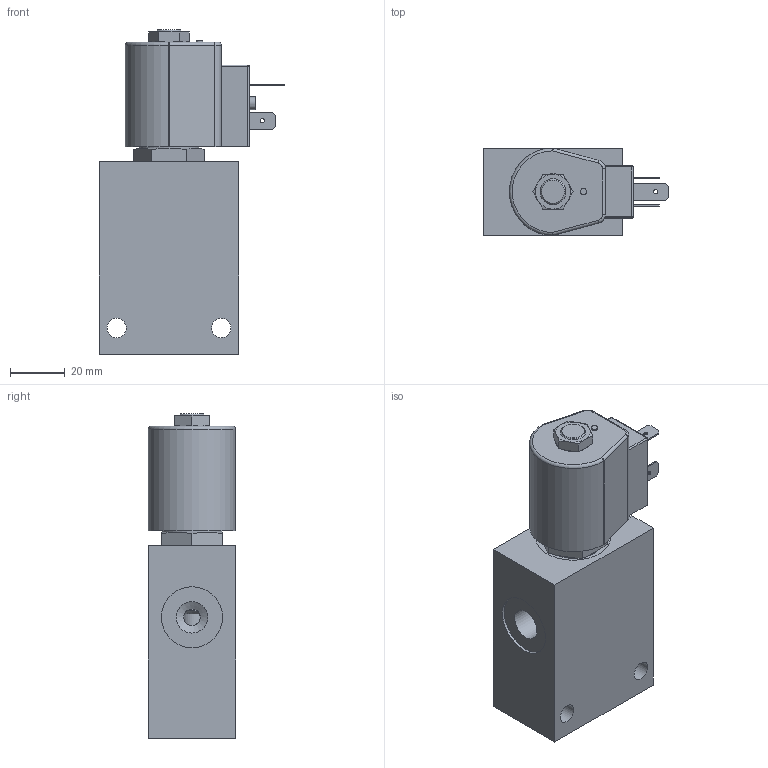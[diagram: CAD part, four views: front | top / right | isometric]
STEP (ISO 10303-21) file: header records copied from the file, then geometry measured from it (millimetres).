
FILE_DESCRIPTION( ( 'Unknown' ), '1' );
FILE_NAME( 'G:/Graphic Design/Graphic Design 2/Data Sheets/SOLENOID OPERATED VALVES/4_STEP/4W2P Spool/HD-S4A00-A4.stp', 'Unknown', ( 'Unknown' ), ( 'Unknown' ), 'PSStep 15.0.49', 'Unknown', ' ' );
FILE_SCHEMA( ( 'AUTOMOTIVE_DESIGN { 1 0 10303 214 1 1 1 1 }' ) );
Length unit declared in the file: millimetre
Products named in the file (14): HDS4A00; HDS4A00-3D Full1; HDS4A00-3D Full2; HDS4A00-3D Full3; HDS4A00-3D Full4; HDS4A00-3D Full5; HDS4A00-3D Full6; HDS4A00-3D Full7; HDS4A00-3D Full8; D-MHC12; MHC_0; Assem1; B-D-MD-A4A; Delta_3_8_nut1
Assembly tree (13 placements, depth 3):
  Assem1
    B-D-MD-A4A
    Delta_3_8_nut1
    HDS4A00
      HDS4A00-3D Full1
      HDS4A00-3D Full2
      HDS4A00-3D Full3
      HDS4A00-3D Full4
      HDS4A00-3D Full5
      HDS4A00-3D Full6
      HDS4A00-3D Full7
      HDS4A00-3D Full8
    D-MHC12
      MHC_0
Bounding box: 67.56 x 31.77 x 118.05 mm (x, y, z)
Volume: 140903.3 mm3; surface area: 35980.5 mm2
Topology: 11 solids, 11 shells, 265 faces, 590 edges, 367 vertices
Faces by surface type: plane 97, cylinder 92, cone 64, torus 8, sphere 4
Full cylindrical faces by diameter (mm): 1.524 x2, 1.536 x1, 2.286 x1, 2.946 x1, 3.175 x1, 4.763 x1, 5.563 x1, 6 x3, 7 x2, 7.036 x1, 7.087 x1, 8.166 x1, 8.181 x1, 8.217 x1, 8.379 x1, 8.496 x2, 9.373 x2, 9.402 x1, 9.525 x2, 9.627 x1, 9.843 x2, 9.893 x1, 10.757 x1, 10.922 x2, 11.1 x1, 11.151 x1, 11.5 x8, 12.433 x1, 12.624 x3, 12.7 x1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
Entity records: 9460 total; most frequent: CARTESIAN_POINT 1871, DIRECTION 1146, ORIENTED_EDGE 880, AXIS2_PLACEMENT_3D 501, EDGE_CURVE 440, EDGE_LOOP 422, VERTEX_POINT 330, FACE_OUTER_BOUND 322
